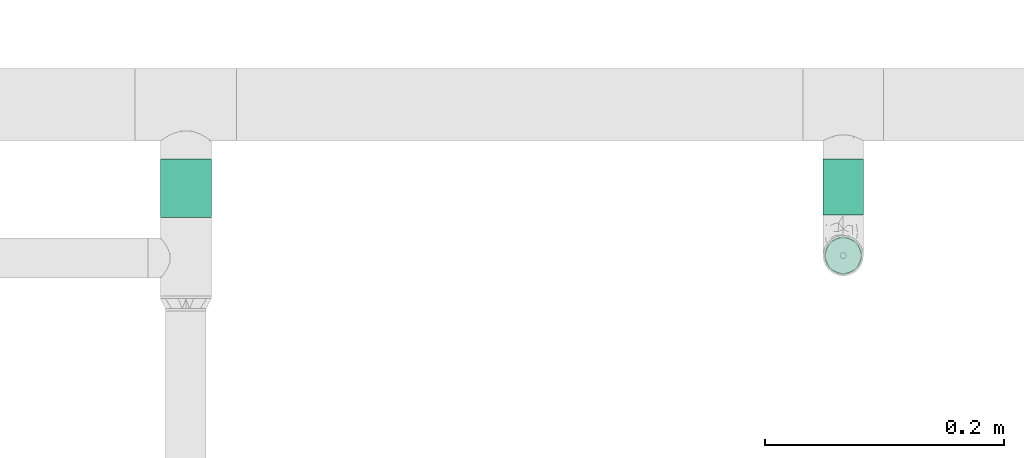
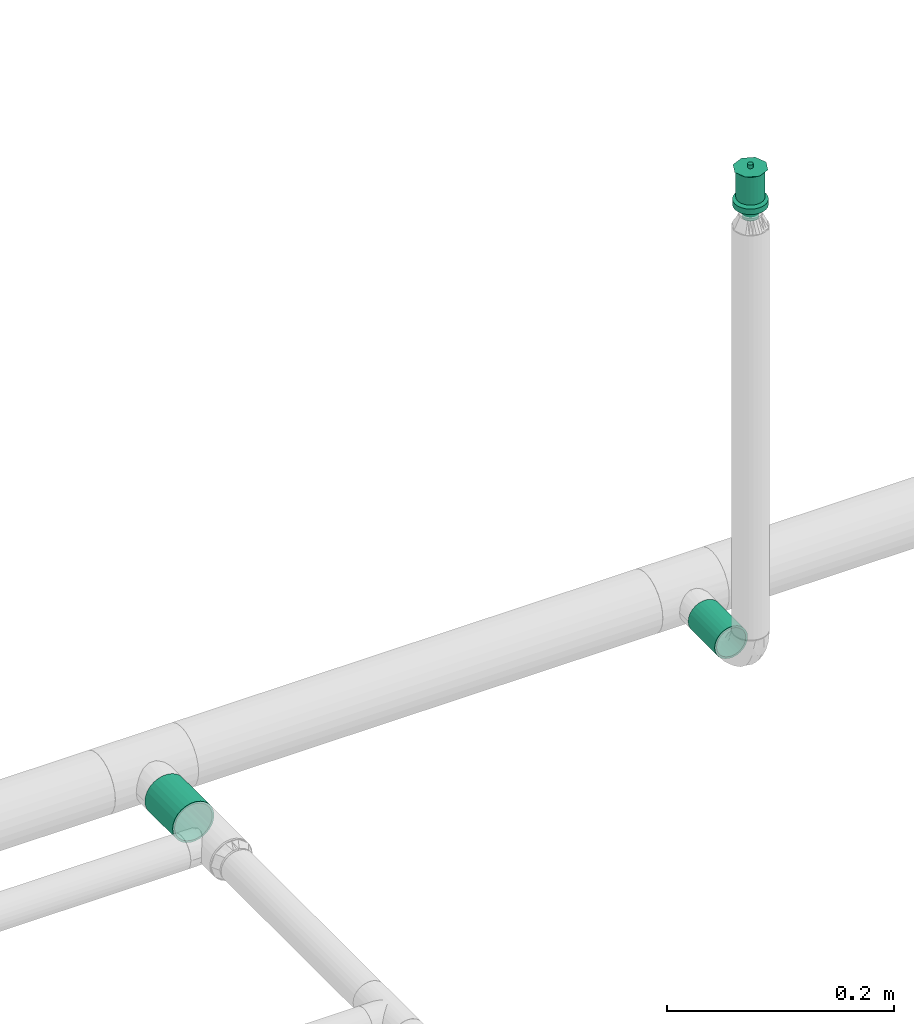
# One storey, part 71 of 157: 2 flow segments, 1 flow terminal.
"""IFC2X3 building model written with IfcOpenShell, lengths in millimetres."""

from ifc_helpers import new_model, entity, si_unit, converted_unit, derived_unit, direction, frame, origin_with_axes, origin_2d_with_axis, place, context, subcontext, project, spatial, hollow_circle, extrude, open_shell, surface_model, source, transform, mapped, type_object, element, save


model = new_model("IFC2X3")

# Units and contexts
model_context = context("Model", 3, precision=0.01, world=frame((0.0, 4.29681676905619e-09, 0.0)), true_north=direction((4.01073788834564e-13, 1.0)))
plan_context = context("Plan", 3, precision=0.01, world=frame((0.0, 4.29681676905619e-09, 0.0)), true_north=direction((4.01073788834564e-13, 1.0)))
body_context = subcontext(model_context, "Body", "Model", "MODEL_VIEW")
ifc_project = project(units=[converted_unit("PLANEANGLEUNIT", "DEGREE", entity("IfcPositiveLengthMeasure", 0.0174532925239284), si_unit("PLANEANGLEUNIT", "RADIAN"), dimensions=[0, 0, 0, 0, 0, 0, 0]), si_unit("AREAUNIT", "SQUARE_METRE"), si_unit("LENGTHUNIT", "METRE", prefix="MILLI"), si_unit("MASSUNIT", "GRAM", prefix="KILO"), si_unit("POWERUNIT", "WATT"), si_unit("PRESSUREUNIT", "PASCAL"), si_unit("FORCEUNIT", "NEWTON", prefix="KILO"), si_unit("ELECTRICCURRENTUNIT", "AMPERE"), si_unit("THERMODYNAMICTEMPERATUREUNIT", "DEGREE_CELSIUS"), si_unit("TIMEUNIT", "SECOND"), si_unit("VOLUMEUNIT", "CUBIC_METRE"), derived_unit("LINEARVELOCITYUNIT", [(si_unit("LENGTHUNIT", "METRE"), 1), (si_unit("TIMEUNIT", "SECOND"), -1)]), derived_unit("VOLUMETRICFLOWRATEUNIT", [(si_unit("VOLUMEUNIT", "CUBIC_METRE"), 1), (si_unit("TIMEUNIT", "SECOND"), -1)]), derived_unit("THERMALTRANSMITTANCEUNIT", [(si_unit("POWERUNIT", "WATT"), 1), (si_unit("THERMODYNAMICTEMPERATUREUNIT", "KELVIN"), -1), (si_unit("AREAUNIT", "SQUARE_METRE"), -1)])], contexts=[model_context, plan_context])

# Site, building, storey
site_placement = place(None, frame((0.0, -4.29681676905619e-09, 0.0), z_axis=(0.0, 0.0, 1.0), x_axis=(1.0, 0.0, 0.0)))
site = spatial("IfcSite", under=ifc_project, at=site_placement, CompositionType="ELEMENT")
building_placement = place(site_placement, frame((0.0, 4.29681676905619e-09, 0.0), z_axis=(0.0, 0.0, 1.0), x_axis=(1.0, 0.0, 0.0)))
building = spatial("IfcBuilding", under=site, at=building_placement, Name="mc-building", CompositionType="ELEMENT")
storey_placement = place(building_placement, frame((0.0, 0.0, 204000.0), z_axis=(0.0, 0.0, 1.0), x_axis=(1.0, 0.0, 0.0)))
storey = spatial("IfcBuildingStorey", under=building, at=storey_placement, Name="Nivå D", CompositionType="ELEMENT", Elevation=204000.0)

# Flow segments
pipe_segment_type = type_object("IfcPipeSegmentType", Name="Stålrør normaltykke", PredefinedType="RIGIDSEGMENT")
shared_shape_1 = source(origin_with_axes(), body_context, "Body", "SweptSolid", [
    extrude(hollow_circle(Radius=21.2, WallThickness=2.0, at=origin_2d_with_axis()), frame((0.0, 0.0, 0.0), z_axis=(1.0, 0.0, 0.0), x_axis=(0.0, 1.0, 0.0)), (0.0, 0.0, 1.0), 49.1),
])
flow_segment_1_placement = place(storey_placement, frame((518685.97464, 413945.00018, 2690.0), z_axis=(0.0, 0.0, 1.0), x_axis=(0.0, 1.0, 0.0)))
element("IfcFlowSegment", 1, at=flow_segment_1_placement, inside=storey, type_object=pipe_segment_type, Name="Stålrør normaltykke", context=body_context, shape_type="MappedRepresentation", body=[
    mapped(shared_shape_1, transform((0.0, 0.0, 0.0), scale=1.0)),
])
shared_shape_2 = source(origin_with_axes(), body_context, "Body", "SweptSolid", [
    extrude(hollow_circle(Radius=16.9, WallThickness=2.0, at=origin_2d_with_axis()), frame((0.0, 0.0, 0.0), z_axis=(1.0, 0.0, 0.0), x_axis=(0.0, 1.0, 0.0)), (0.0, 0.0, 1.0), 46.8),
])
flow_segment_2_placement = place(storey_placement, frame((519235.35, 413994.05389, 2690.0), z_axis=(0.0, 0.0, 1.0), x_axis=(0.0, -1.0, 0.0)))
element("IfcFlowSegment", 2, at=flow_segment_2_placement, inside=storey, type_object=pipe_segment_type, Name="Stålrør normaltykke", context=body_context, shape_type="MappedRepresentation", body=[
    mapped(shared_shape_2, transform((0.0, 0.0, 0.0), scale=1.0)),
])

# Flow terminal
fire_suppression_terminal_type = type_object("IfcFireSuppressionTerminalType", Name="68DGR-STD-STÅENDE", PredefinedType="NOTDEFINED")
shared_shape_3 = source(origin_with_axes(), body_context, "Body", "SurfaceModel", [
    surface_model("IfcShellBasedSurfaceModel", [(3.36465, -12.55704, 51.0), (6.5, -11.25833, 51.0), (9.19239, -9.19239, 51.0), (12.55704, -3.36465, 51.0), (-11.25833, -6.5, 51.0), (11.25833, -6.5, 51.0), (-13.0, 0.0, 51.0), (0.0, -13.0, 51.0), (-6.5, -11.25833, 51.0), (-3.36465, -12.55704, 51.0), (-9.19239, -9.19239, 51.0), (-12.55704, -3.36465, 51.0), (13.0, 0.0, 51.0), (12.55704, 3.36465, 51.0), (11.25833, 6.5, 51.0), (9.19239, 9.19239, 51.0), (6.5, 11.25833, 51.0), (3.36465, 12.55704, 51.0), (0.0, 13.0, 51.0), (-3.36465, 12.55704, 51.0), (-12.55704, 3.36465, 51.0), (-9.19239, 9.19239, 51.0), (-11.25833, 6.5, 51.0), (-6.5, 11.25833, 51.0), (0.0, 13.0, 21.14766), (3.36465, 12.55704, 21.14766), (6.5, 11.25833, 21.14766), (-3.36465, 12.55704, 21.14766), (9.19239, 9.19239, 21.14766), (11.25833, 6.5, 21.14766), (12.55704, 3.36465, 21.14766), (-12.55704, 3.36465, 21.14766), (-11.25833, -6.5, 21.14766), (-9.19239, 9.19239, 21.14766), (-6.5, 11.25833, 21.14766), (-11.25833, 6.5, 21.14766), (-13.0, 0.0, 21.14766), (12.55704, -3.36465, 21.14766), (9.19239, -9.19239, 21.14766), (11.25833, -6.5, 21.14766), (6.5, -11.25833, 21.14766), (3.36465, -12.55704, 21.14766), (-6.5, -11.25833, 21.14766), (-9.19239, -9.19239, 21.14766), (-12.55704, -3.36465, 21.14766), (0.0, -13.0, 21.14766), (-3.36465, -12.55704, 21.14766), (13.0, 0.0, 21.14766), (7.24444, -1.94114, 0.1), (1.94114, -7.24444, 0.1), (3.75, -6.49519, 0.1), (5.3033, -5.3033, 0.1), (-5.3033, -5.3033, 0.1), (6.49519, -3.75, 0.1), (5.3033, 5.3033, 0.1), (0.0, -7.5, 0.1), (-3.75, -6.49519, 0.1), (-1.94114, -7.24444, 0.1), (-7.24444, -1.94114, 0.1), (-6.49519, -3.75, 0.1), (-7.24444, 1.94114, 0.1), (7.5, 0.0, 0.1), (6.49519, 3.75, 0.1), (-6.49519, 3.75, 0.1), (1.94114, 7.24444, 0.1), (0.0, 7.5, 0.1), (3.75, 6.49519, 0.1), (-7.5, 0.0, 0.1), (-5.3033, 5.3033, 0.1), (-1.94114, 7.24444, 0.1), (-3.75, 6.49519, 0.1), (7.24444, 1.94114, 0.1), (1.94114, 7.24444, -0.1), (-6.49519, 3.75, -0.1), (0.0, 7.5, -0.1), (5.3033, 5.3033, -0.1), (3.75, 6.49519, -0.1), (6.49519, 3.75, -0.1), (7.24444, 1.94114, -0.1), (-1.94114, 7.24444, -0.1), (-5.3033, 5.3033, -0.1), (-3.75, 6.49519, -0.1), (-7.24444, 1.94114, -0.1), (-7.24444, -1.94114, -0.1), (-7.5, 0.0, -0.1), (7.5, 0.0, -0.1), (7.24444, -1.94114, -0.1), (-5.3033, -5.3033, -0.1), (1.94114, -7.24444, -0.1), (6.49519, -3.75, -0.1), (5.3033, -5.3033, -0.1), (3.75, -6.49519, -0.1), (-6.49519, -3.75, -0.1), (-3.75, -6.49519, -0.1), (0.0, -7.5, -0.1), (-1.94114, -7.24444, -0.1), (0.0, -2.5, 51.0), (-2.5, 0.0, 51.0), (0.0, 2.5, 51.0), (2.5, 0.0, 51.0), (0.0, -16.0, 53.0), (11.31371, -11.31371, 53.0), (-11.31371, -11.31371, 53.0), (-16.0, 0.0, 53.0), (16.0, 0.0, 53.0), (11.31371, 11.31371, 53.0), (0.0, 16.0, 53.0), (-11.31371, 11.31371, 53.0), (1.25, -2.16506, 57.0), (0.0, -2.5, 57.0), (0.64705, -2.41481, 57.0), (2.41481, -0.64705, 57.0), (1.76777, -1.76777, 57.0), (-2.41481, -0.64705, 57.0), (-2.5, 0.0, 57.0), (2.16506, -1.25, 57.0), (-1.25, -2.16506, 57.0), (-0.64705, -2.41481, 57.0), (-1.76777, -1.76777, 57.0), (-2.16506, -1.25, 57.0), (2.5, 0.0, 57.0), (2.41481, 0.64705, 57.0), (2.16506, 1.25, 57.0), (1.76777, 1.76777, 57.0), (0.64705, 2.41481, 57.0), (1.25, 2.16506, 57.0), (-1.76777, 1.76777, 57.0), (0.0, 2.5, 57.0), (-2.16506, 1.25, 57.0), (-2.41481, 0.64705, 57.0), (-0.64705, 2.41481, 57.0), (-1.25, 2.16506, 57.0), (1.25, 2.16506, 51.0), (1.76777, 1.76777, 51.0), (1.15, 1.99186, 51.0), (0.59528, 2.22163, 51.0), (0.64705, 2.41481, 51.0), (0.0, 2.3, 51.0), (1.62635, 1.62635, 51.0), (2.41481, 0.64705, 51.0), (2.3, 0.0, 51.0), (2.22163, 0.59528, 51.0), (2.16506, 1.25, 51.0), (1.99186, 1.15, 51.0), (-0.59528, 2.22163, 51.0), (-0.64705, 2.41481, 51.0), (-1.15, 1.99186, 51.0), (-1.76777, 1.76777, 51.0), (-1.25, 2.16506, 51.0), (-1.62635, 1.62635, 51.0), (-1.99186, 1.15, 51.0), (-2.16506, 1.25, 51.0), (-2.22163, 0.59528, 51.0), (-2.41481, 0.64705, 51.0), (-2.3, 0.0, 51.0), (2.41481, -0.64705, 51.0), (2.22163, -0.59528, 51.0), (1.99186, -1.15, 51.0), (2.16506, -1.25, 51.0), (1.62635, -1.62635, 51.0), (1.76777, -1.76777, 51.0), (1.25, -2.16506, 51.0), (1.15, -1.99186, 51.0), (0.59528, -2.22163, 51.0), (0.64705, -2.41481, 51.0), (0.0, -2.3, 51.0), (-2.16506, -1.25, 51.0), (-1.99186, -1.15, 51.0), (-1.76777, -1.76777, 51.0), (-1.62635, -1.62635, 51.0), (-2.41481, -0.64705, 51.0), (-2.22163, -0.59528, 51.0), (-0.59528, -2.22163, 51.0), (-0.64705, -2.41481, 51.0), (-1.15, -1.99186, 51.0), (-1.25, -2.16506, 51.0), (1.62635, -1.62635, 56.8), (1.15, -1.99186, 56.8), (0.59528, -2.22163, 56.8), (0.0, -2.3, 56.8), (2.22163, 0.59528, 56.8), (1.99186, -1.15, 56.8), (2.22163, -0.59528, 56.8), (-0.59528, -2.22163, 56.8), (-1.15, -1.99186, 56.8), (-1.62635, -1.62635, 56.8), (-1.99186, -1.15, 56.8), (-2.22163, -0.59528, 56.8), (-1.99186, 1.15, 56.8), (2.3, 0.0, 56.8), (1.62635, 1.62635, 56.8), (1.99186, 1.15, 56.8), (1.15, 1.99186, 56.8), (0.0, 2.3, 56.8), (0.59528, 2.22163, 56.8), (-2.22163, 0.59528, 56.8), (-2.3, 0.0, 56.8), (-1.15, 1.99186, 56.8), (-0.59528, 2.22163, 56.8), (-1.62635, 1.62635, 56.8), (4.1411, -15.45481, 19.0), (8.0, -13.85641, 19.0), (11.31371, -11.31371, 19.0), (-8.0, -13.85641, 19.0), (15.45481, -4.1411, 19.0), (16.0, 0.0, 19.0), (13.85641, -8.0, 19.0), (0.0, -16.0, 19.0), (-4.1411, -15.45481, 19.0), (-13.85641, -8.0, 19.0), (-11.31371, -11.31371, 19.0), (-15.45481, -4.1411, 19.0), (15.45481, 4.1411, 19.0), (13.85641, 8.0, 19.0), (11.31371, 11.31371, 19.0), (-4.1411, 15.45481, 19.0), (8.0, 13.85641, 19.0), (4.1411, 15.45481, 19.0), (0.0, 16.0, 19.0), (-13.85641, 8.0, 19.0), (-15.45481, 4.1411, 19.0), (-16.0, 0.0, 19.0), (-11.31371, 11.31371, 19.0), (-8.0, 13.85641, 19.0), (0.0, 16.0, 13.0), (4.1411, 15.45481, 13.0), (8.0, 13.85641, 13.0), (-4.1411, 15.45481, 13.0), (11.31371, 11.31371, 13.0), (13.85641, 8.0, 13.0), (15.45481, 4.1411, 13.0), (-15.45481, -4.1411, 13.0), (-11.31371, 11.31371, 13.0), (-8.0, 13.85641, 13.0), (-13.85641, 8.0, 13.0), (-15.45481, 4.1411, 13.0), (-16.0, 0.0, 13.0), (4.1411, -15.45481, 13.0), (16.0, 0.0, 13.0), (15.45481, -4.1411, 13.0), (13.85641, -8.0, 13.0), (11.31371, -11.31371, 13.0), (8.0, -13.85641, 13.0), (-8.0, -13.85641, 13.0), (-13.85641, -8.0, 13.0), (-11.31371, -11.31371, 13.0), (0.0, -16.0, 13.0), (-4.1411, -15.45481, 13.0), (7.24444, -1.94114, 13.0), (1.94114, -7.24444, 13.0), (3.75, -6.49519, 13.0), (5.3033, -5.3033, 13.0), (-5.3033, -5.3033, 13.0), (6.49519, -3.75, 13.0), (5.3033, 5.3033, 13.0), (0.0, -7.5, 13.0), (-3.75, -6.49519, 13.0), (-1.94114, -7.24444, 13.0), (-7.24444, -1.94114, 13.0), (-6.49519, -3.75, 13.0), (-7.24444, 1.94114, 13.0), (7.5, 0.0, 13.0), (6.49519, 3.75, 13.0), (-6.49519, 3.75, 13.0), (1.94114, 7.24444, 13.0), (0.0, 7.5, 13.0), (3.75, 6.49519, 13.0), (-7.5, 0.0, 13.0), (-5.3033, 5.3033, 13.0), (-1.94114, 7.24444, 13.0), (-3.75, 6.49519, 13.0), (7.24444, 1.94114, 13.0), (3.75, 6.49519, 0.0), (5.3033, 5.3033, 0.0), (3.65, 6.32199, 0.0), (1.88938, 7.05126, 0.0), (0.0, 7.3, 0.0), (1.94114, 7.24444, 0.0), (0.0, 7.5, 0.0), (5.16188, 5.16188, 0.0), (7.24444, 1.94114, 0.0), (7.3, 0.0, 0.0), (7.05126, 1.88938, 0.0), (7.5, 0.0, 0.0), (6.49519, 3.75, 0.0), (6.32199, 3.65, 0.0), (-1.88938, 7.05126, 0.0), (-1.94114, 7.24444, 0.0), (-3.65, 6.32199, 0.0), (-5.3033, 5.3033, 0.0), (-3.75, 6.49519, 0.0), (-5.16188, 5.16188, 0.0), (-6.32199, 3.65, 0.0), (-6.49519, 3.75, 0.0), (-7.05126, 1.88938, 0.0), (-7.24444, 1.94114, 0.0), (-7.3, 0.0, 0.0), (-7.5, 0.0, 0.0), (7.24444, -1.94114, 0.0), (7.05126, -1.88938, 0.0), (6.32199, -3.65, 0.0), (6.49519, -3.75, 0.0), (5.16188, -5.16188, 0.0), (5.3033, -5.3033, 0.0), (3.75, -6.49519, 0.0), (3.65, -6.32199, 0.0), (1.88938, -7.05126, 0.0), (1.94114, -7.24444, 0.0), (0.0, -7.3, 0.0), (0.0, -7.5, 0.0), (-6.49519, -3.75, 0.0), (-6.32199, -3.65, 0.0), (-5.3033, -5.3033, 0.0), (-5.16188, -5.16188, 0.0), (-7.24444, -1.94114, 0.0), (-7.05126, -1.88938, 0.0), (-1.88938, -7.05126, 0.0), (-1.94114, -7.24444, 0.0), (-3.65, -6.32199, 0.0), (-3.75, -6.49519, 0.0), (1.88938, -7.05126, 12.8), (0.0, -7.3, 12.8), (3.65, -6.32199, 12.8), (5.16188, -5.16188, 12.8), (6.32199, -3.65, 12.8), (7.05126, 1.88938, 12.8), (7.05126, -1.88938, 12.8), (-5.16188, -5.16188, 12.8), (-1.88938, -7.05126, 12.8), (-3.65, -6.32199, 12.8), (-6.32199, -3.65, 12.8), (-7.05126, -1.88938, 12.8), (0.0, 7.3, 12.8), (7.3, 0.0, 12.8), (6.32199, 3.65, 12.8), (5.16188, 5.16188, 12.8), (3.65, 6.32199, 12.8), (1.88938, 7.05126, 12.8), (-6.32199, 3.65, 12.8), (-7.05126, 1.88938, 12.8), (-7.3, 0.0, 12.8), (-3.65, 6.32199, 12.8), (-1.88938, 7.05126, 12.8), (-5.16188, 5.16188, 12.8)], [open_shell([[[0, 1, 2]], [[0, 2, 3]], [[0, 3, 4]], [[3, 2, 5]], [[6, 4, 3]], [[7, 8, 9]], [[7, 0, 8]], [[8, 4, 10]], [[0, 4, 8]], [[4, 6, 11]], [[6, 3, 12]], [[13, 14, 15]], [[6, 13, 15]], [[16, 17, 18]], [[15, 16, 19]], [[18, 19, 16]], [[20, 21, 22]], [[20, 6, 15]], [[21, 19, 23]], [[19, 21, 20]], [[15, 19, 20]], [[13, 6, 12]], [[24, 25, 26]], [[27, 24, 26]], [[28, 29, 30]], [[26, 28, 31]], [[28, 32, 31]], [[27, 33, 34]], [[33, 27, 31]], [[33, 31, 35]], [[27, 26, 31]], [[31, 32, 36]], [[32, 28, 30]], [[32, 30, 37]], [[38, 37, 39]], [[38, 40, 41]], [[38, 41, 37]], [[32, 37, 41]], [[32, 42, 43]], [[44, 36, 32]], [[42, 45, 46]], [[42, 32, 41]], [[45, 42, 41]], [[30, 47, 37]], [[4, 32, 43]], [[8, 42, 46]], [[43, 42, 10]], [[9, 46, 45]], [[36, 11, 6]], [[11, 36, 44]], [[11, 44, 4]], [[44, 32, 4]], [[43, 10, 4]], [[8, 10, 42]], [[46, 9, 8]], [[45, 7, 9]], [[0, 41, 40]], [[38, 1, 40]], [[5, 39, 37]], [[38, 39, 2]], [[3, 37, 47]], [[41, 0, 7]], [[40, 1, 0]], [[38, 2, 1]], [[39, 5, 2]], [[3, 5, 37]], [[47, 12, 3]], [[41, 7, 45]], [[30, 13, 47]], [[29, 14, 30]], [[25, 24, 17]], [[15, 29, 28]], [[30, 14, 13]], [[13, 12, 47]], [[16, 26, 17]], [[16, 15, 28]], [[26, 25, 17]], [[15, 14, 29]], [[28, 26, 16]], [[24, 18, 17]], [[19, 27, 34]], [[33, 23, 34]], [[22, 35, 31]], [[33, 35, 21]], [[20, 31, 36]], [[27, 19, 18]], [[34, 23, 19]], [[33, 21, 23]], [[35, 22, 21]], [[20, 22, 31]], [[36, 6, 20]], [[27, 18, 24]], [[48, 49, 50]], [[48, 50, 51]], [[49, 48, 52]], [[48, 51, 53]], [[54, 52, 48]], [[55, 56, 57]], [[56, 55, 52]], [[52, 58, 59]], [[52, 55, 49]], [[52, 60, 58]], [[54, 48, 61]], [[62, 54, 61]], [[54, 63, 52]], [[64, 65, 54]], [[64, 54, 66]], [[63, 54, 65]], [[63, 60, 52]], [[67, 58, 60]], [[68, 69, 70]], [[69, 68, 63]], [[69, 63, 65]], [[71, 62, 61]], [[72, 73, 74]], [[75, 72, 76]], [[75, 77, 78]], [[72, 75, 73]], [[78, 73, 75]], [[79, 80, 81]], [[80, 79, 73]], [[74, 73, 79]], [[78, 82, 73]], [[82, 83, 84]], [[82, 78, 85]], [[86, 87, 85]], [[88, 86, 89]], [[90, 91, 88]], [[90, 88, 89]], [[87, 86, 88]], [[83, 87, 92]], [[83, 85, 87]], [[93, 94, 95]], [[94, 93, 87]], [[88, 94, 87]], [[85, 83, 82]], [[83, 58, 84]], [[92, 59, 83]], [[56, 87, 93]], [[92, 87, 52]], [[57, 93, 95]], [[83, 59, 58]], [[58, 67, 84]], [[57, 56, 93]], [[52, 87, 56]], [[52, 59, 92]], [[55, 57, 95]], [[95, 94, 55]], [[88, 49, 94]], [[91, 50, 88]], [[53, 90, 89]], [[91, 90, 51]], [[48, 89, 86]], [[91, 51, 50]], [[50, 49, 88]], [[61, 48, 86]], [[53, 89, 48]], [[53, 51, 90]], [[85, 61, 86]], [[94, 49, 55]], [[78, 71, 85]], [[77, 62, 78]], [[66, 75, 76]], [[77, 75, 54]], [[64, 76, 72]], [[78, 62, 71]], [[71, 61, 85]], [[64, 66, 76]], [[54, 75, 66]], [[54, 62, 77]], [[65, 64, 72]], [[72, 74, 65]], [[79, 69, 74]], [[81, 70, 79]], [[63, 80, 73]], [[81, 80, 68]], [[60, 73, 82]], [[81, 68, 70]], [[70, 69, 79]], [[67, 60, 82]], [[63, 73, 60]], [[63, 68, 80]], [[84, 67, 82]], [[74, 69, 65]], [[96, 97, 98]], [[98, 99, 96]], [[100, 101, 102]], [[103, 102, 101]], [[101, 104, 103]], [[104, 105, 106]], [[107, 103, 106]], [[106, 103, 104]], [[99, 98, 105]], [[105, 104, 99]], [[98, 106, 105]], [[98, 107, 106]], [[107, 98, 97]], [[103, 107, 97]], [[97, 96, 102]], [[102, 103, 97]], [[96, 100, 102]], [[96, 101, 100]], [[101, 96, 99]], [[104, 101, 99]], [[108, 109, 110]], [[111, 108, 112]], [[113, 108, 114]], [[111, 112, 115]], [[108, 111, 114]], [[109, 116, 117]], [[116, 109, 118]], [[118, 113, 119]], [[118, 109, 108]], [[108, 113, 118]], [[111, 120, 114]], [[121, 122, 123]], [[114, 121, 123]], [[114, 123, 124]], [[124, 123, 125]], [[126, 124, 127]], [[124, 128, 129]], [[129, 114, 124]], [[126, 130, 131]], [[128, 124, 126]], [[130, 126, 127]], [[121, 114, 120]], [[132, 133, 134]], [[132, 134, 135]], [[136, 135, 137]], [[135, 136, 132]], [[136, 137, 98]], [[134, 133, 138]], [[139, 140, 141]], [[140, 139, 99]], [[139, 141, 142]], [[138, 142, 143]], [[142, 138, 133]], [[143, 142, 141]], [[98, 144, 145]], [[98, 137, 144]], [[145, 144, 146]], [[147, 148, 149]], [[146, 148, 145]], [[149, 148, 146]], [[150, 151, 147]], [[151, 150, 152]], [[150, 147, 149]], [[153, 152, 154]], [[152, 153, 151]], [[153, 154, 97]], [[99, 155, 156]], [[156, 155, 157]], [[157, 158, 159]], [[158, 157, 155]], [[159, 158, 160]], [[160, 161, 162]], [[162, 161, 163]], [[163, 164, 165]], [[164, 163, 161]], [[165, 164, 96]], [[162, 159, 160]], [[166, 167, 168]], [[168, 167, 169]], [[167, 166, 170]], [[97, 171, 170]], [[170, 171, 167]], [[97, 154, 171]], [[172, 96, 173]], [[172, 173, 174]], [[169, 175, 168]], [[175, 169, 174]], [[175, 174, 173]], [[165, 96, 172]], [[156, 140, 99]], [[170, 113, 97]], [[166, 119, 170]], [[116, 168, 175]], [[166, 168, 118]], [[117, 175, 173]], [[170, 119, 113]], [[113, 114, 97]], [[117, 116, 175]], [[118, 168, 116]], [[118, 119, 166]], [[109, 117, 173]], [[173, 96, 109]], [[164, 110, 96]], [[161, 108, 164]], [[115, 160, 158]], [[161, 160, 112]], [[111, 158, 155]], [[161, 112, 108]], [[108, 110, 164]], [[120, 111, 155]], [[115, 158, 111]], [[115, 112, 160]], [[99, 120, 155]], [[96, 110, 109]], [[139, 121, 99]], [[142, 122, 139]], [[125, 133, 132]], [[142, 133, 123]], [[124, 132, 136]], [[139, 122, 121]], [[121, 120, 99]], [[124, 125, 132]], [[123, 133, 125]], [[123, 122, 142]], [[127, 124, 136]], [[136, 98, 127]], [[145, 130, 98]], [[148, 131, 145]], [[128, 147, 151]], [[148, 147, 126]], [[129, 151, 153]], [[148, 126, 131]], [[131, 130, 145]], [[114, 129, 153]], [[128, 151, 129]], [[128, 126, 147]], [[97, 114, 153]], [[98, 130, 127]], [[176, 177, 178]], [[176, 178, 179]], [[180, 176, 179]], [[181, 176, 182]], [[180, 182, 176]], [[183, 184, 179]], [[185, 179, 184]], [[186, 187, 185]], [[185, 187, 188]], [[179, 185, 188]], [[189, 182, 180]], [[190, 191, 180]], [[192, 190, 180]], [[193, 194, 192]], [[180, 193, 192]], [[188, 193, 180]], [[195, 188, 196]], [[196, 188, 187]], [[197, 198, 199]], [[188, 199, 198]], [[188, 198, 193]], [[180, 179, 188]], [[154, 187, 171]], [[171, 186, 167]], [[174, 169, 184]], [[185, 169, 167]], [[172, 174, 183]], [[187, 186, 171]], [[154, 196, 187]], [[174, 184, 183]], [[184, 169, 185]], [[167, 186, 185]], [[172, 183, 179]], [[179, 165, 172]], [[165, 178, 163]], [[163, 177, 162]], [[157, 159, 181]], [[176, 159, 162]], [[156, 157, 182]], [[177, 176, 162]], [[163, 178, 177]], [[156, 182, 189]], [[182, 157, 181]], [[159, 176, 181]], [[156, 189, 140]], [[179, 178, 165]], [[140, 180, 141]], [[141, 191, 143]], [[134, 138, 192]], [[190, 138, 143]], [[135, 134, 194]], [[180, 191, 141]], [[140, 189, 180]], [[134, 192, 194]], [[192, 138, 190]], [[143, 191, 190]], [[135, 194, 193]], [[193, 137, 135]], [[137, 198, 144]], [[144, 197, 146]], [[150, 149, 188]], [[199, 149, 146]], [[152, 150, 195]], [[197, 199, 146]], [[144, 198, 197]], [[152, 195, 196]], [[195, 150, 188]], [[149, 199, 188]], [[152, 196, 154]], [[193, 198, 137]], [[200, 201, 202]], [[203, 200, 202]], [[204, 205, 202]], [[204, 202, 206]], [[203, 202, 205]], [[207, 203, 208]], [[207, 200, 203]], [[203, 209, 210]], [[209, 203, 211]], [[205, 211, 203]], [[205, 212, 211]], [[212, 213, 214]], [[215, 212, 214]], [[216, 217, 218]], [[214, 216, 215]], [[218, 215, 216]], [[211, 219, 220]], [[221, 211, 220]], [[222, 215, 223]], [[215, 222, 219]], [[219, 211, 215]], [[211, 212, 215]], [[224, 225, 226]], [[227, 224, 226]], [[228, 229, 230]], [[227, 226, 228]], [[227, 228, 231]], [[227, 232, 233]], [[232, 227, 234]], [[234, 231, 235]], [[231, 234, 227]], [[235, 231, 236]], [[228, 230, 231]], [[237, 238, 239]], [[237, 239, 240]], [[241, 242, 237]], [[241, 237, 240]], [[238, 237, 243]], [[244, 243, 245]], [[243, 244, 231]], [[243, 246, 247]], [[243, 231, 238]], [[237, 246, 243]], [[238, 231, 230]], [[231, 211, 236]], [[244, 209, 231]], [[203, 245, 243]], [[244, 245, 210]], [[208, 243, 247]], [[231, 209, 211]], [[211, 221, 236]], [[208, 203, 243]], [[210, 245, 203]], [[210, 209, 244]], [[207, 208, 247]], [[247, 246, 207]], [[237, 200, 246]], [[242, 201, 237]], [[206, 241, 240]], [[242, 241, 202]], [[204, 240, 239]], [[242, 202, 201]], [[201, 200, 237]], [[205, 204, 239]], [[206, 240, 204]], [[206, 202, 241]], [[238, 205, 239]], [[246, 200, 207]], [[230, 212, 238]], [[229, 213, 230]], [[216, 228, 226]], [[229, 228, 214]], [[217, 226, 225]], [[230, 213, 212]], [[212, 205, 238]], [[217, 216, 226]], [[214, 228, 216]], [[214, 213, 229]], [[218, 217, 225]], [[225, 224, 218]], [[227, 215, 224]], [[233, 223, 227]], [[219, 232, 234]], [[233, 232, 222]], [[220, 234, 235]], [[233, 222, 223]], [[223, 215, 227]], [[221, 220, 235]], [[219, 234, 220]], [[219, 222, 232]], [[236, 221, 235]], [[224, 215, 218]], [[248, 249, 250]], [[248, 250, 251]], [[249, 248, 252]], [[248, 251, 253]], [[254, 252, 248]], [[255, 256, 257]], [[256, 255, 252]], [[252, 258, 259]], [[252, 255, 249]], [[252, 260, 258]], [[254, 248, 261]], [[262, 254, 261]], [[254, 263, 252]], [[264, 265, 254]], [[264, 254, 266]], [[263, 254, 265]], [[263, 260, 252]], [[267, 258, 260]], [[268, 269, 270]], [[269, 268, 263]], [[269, 263, 265]], [[271, 262, 261]], [[272, 273, 274]], [[272, 274, 275]], [[276, 277, 275]], [[277, 276, 278]], [[275, 277, 272]], [[274, 273, 279]], [[280, 281, 282]], [[281, 280, 283]], [[280, 282, 284]], [[279, 284, 285]], [[284, 279, 273]], [[285, 284, 282]], [[278, 286, 287]], [[287, 286, 288]], [[289, 290, 291]], [[288, 290, 287]], [[288, 291, 290]], [[278, 276, 286]], [[292, 293, 289]], [[293, 292, 294]], [[292, 289, 291]], [[295, 294, 296]], [[294, 295, 293]], [[295, 296, 297]], [[283, 298, 299]], [[299, 298, 300]], [[300, 301, 302]], [[301, 300, 298]], [[302, 301, 303]], [[303, 304, 305]], [[305, 304, 306]], [[306, 307, 308]], [[307, 306, 304]], [[308, 307, 309]], [[305, 302, 303]], [[310, 311, 312]], [[312, 311, 313]], [[311, 310, 314]], [[297, 315, 314]], [[314, 315, 311]], [[297, 296, 315]], [[316, 309, 317]], [[316, 317, 318]], [[313, 319, 312]], [[313, 318, 319]], [[319, 318, 317]], [[308, 309, 316]], [[299, 281, 283]], [[314, 258, 297]], [[310, 259, 314]], [[256, 312, 319]], [[310, 312, 252]], [[257, 319, 317]], [[314, 259, 258]], [[258, 267, 297]], [[257, 256, 319]], [[252, 312, 256]], [[252, 259, 310]], [[255, 257, 317]], [[317, 309, 255]], [[307, 249, 309]], [[304, 250, 307]], [[253, 303, 301]], [[304, 303, 251]], [[248, 301, 298]], [[304, 251, 250]], [[250, 249, 307]], [[261, 248, 298]], [[253, 301, 248]], [[253, 251, 303]], [[283, 261, 298]], [[309, 249, 255]], [[280, 271, 283]], [[284, 262, 280]], [[266, 273, 272]], [[284, 273, 254]], [[264, 272, 277]], [[280, 262, 271]], [[271, 261, 283]], [[264, 266, 272]], [[254, 273, 266]], [[254, 262, 284]], [[265, 264, 277]], [[277, 278, 265]], [[287, 269, 278]], [[290, 270, 287]], [[263, 289, 293]], [[290, 289, 268]], [[260, 293, 295]], [[290, 268, 270]], [[270, 269, 287]], [[267, 260, 295]], [[263, 293, 260]], [[263, 268, 289]], [[297, 267, 295]], [[278, 269, 265]], [[320, 321, 322]], [[323, 322, 324]], [[325, 326, 322]], [[324, 322, 326]], [[322, 327, 325]], [[328, 329, 321]], [[327, 321, 329]], [[330, 331, 327]], [[322, 321, 327]], [[331, 332, 327]], [[326, 325, 333]], [[334, 325, 332]], [[335, 334, 336]], [[332, 337, 336]], [[334, 332, 336]], [[331, 338, 332]], [[339, 338, 340]], [[340, 338, 331]], [[341, 342, 343]], [[332, 338, 343]], [[332, 343, 342]], [[332, 325, 327]], [[296, 331, 315]], [[315, 330, 311]], [[318, 313, 329]], [[327, 313, 311]], [[316, 318, 328]], [[331, 330, 315]], [[296, 340, 331]], [[318, 329, 328]], [[329, 313, 327]], [[311, 330, 327]], [[316, 328, 321]], [[321, 308, 316]], [[308, 320, 306]], [[306, 322, 305]], [[300, 302, 324]], [[323, 302, 305]], [[299, 300, 326]], [[322, 323, 305]], [[306, 320, 322]], [[299, 326, 333]], [[326, 300, 324]], [[302, 323, 324]], [[299, 333, 281]], [[321, 320, 308]], [[281, 325, 282]], [[282, 334, 285]], [[274, 279, 336]], [[335, 279, 285]], [[275, 274, 337]], [[325, 334, 282]], [[281, 333, 325]], [[274, 336, 337]], [[336, 279, 335]], [[285, 334, 335]], [[275, 337, 332]], [[332, 276, 275]], [[276, 342, 286]], [[286, 341, 288]], [[292, 291, 338]], [[343, 291, 288]], [[294, 292, 339]], [[341, 343, 288]], [[286, 342, 341]], [[294, 339, 340]], [[339, 292, 338]], [[291, 343, 338]], [[294, 340, 296]], [[332, 342, 276]]])]),
])
flow_terminal_placement = place(storey_placement, frame((519235.35, 413913.20018, 3169.5), z_axis=(0.0, 0.0, 1.0), x_axis=(1.0, 0.0, 0.0)))
element("IfcFlowTerminal", 3, at=flow_terminal_placement, inside=storey, type_object=fire_suppression_terminal_type, Name="68DGR-STD-STÅENDE", context=body_context, shape_type="MappedRepresentation", body=[
    mapped(shared_shape_3, transform((0.0, 0.0, 0.0), scale=1.0)),
])

save(model, "model.ifc")
